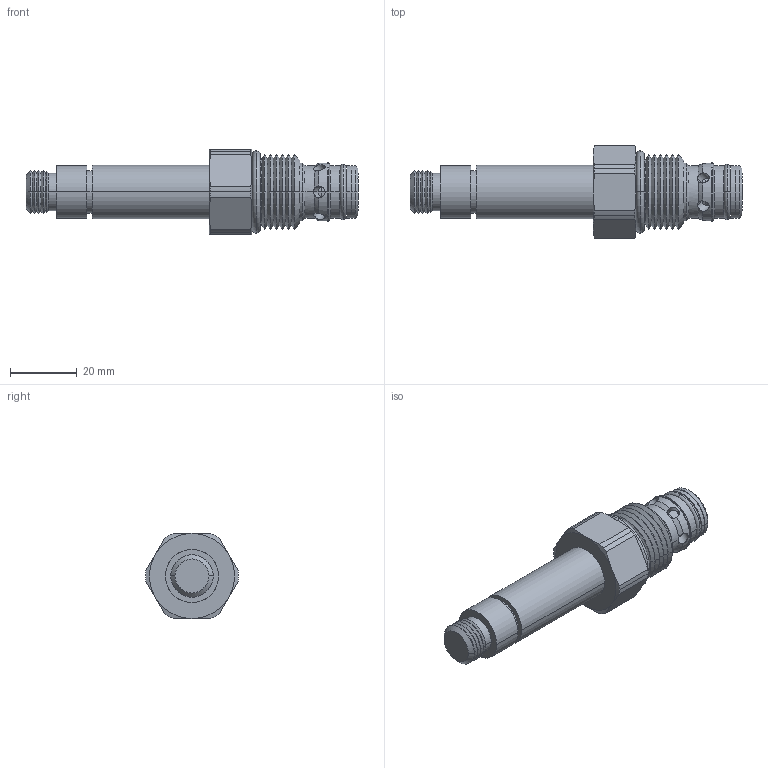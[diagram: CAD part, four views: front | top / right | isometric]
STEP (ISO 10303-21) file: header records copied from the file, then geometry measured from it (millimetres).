
FILE_DESCRIPTION((''),'2;1');
FILE_NAME('U:\Solid model CD\Solid model full\Solenoid\STEP\HES2B00-3D Full.stp','2008-06-23T11:20:55',('Dan'),(''),'Autodesk Inventor 9','Autodesk Inventor 9','');
FILE_SCHEMA(('AUTOMOTIVE_DESIGN { 1 0 10303 214 1 1 1 1 }'));
Length unit declared in the file: inch
Products named in the file (5): HES2B00-3D Full; HES2B00-3D Full1; HES2B00-3D Full2; HES2B00-3D Full3; HES2B00-3D Full4
Assembly tree (4 placements, depth 2):
  HES2B00-3D Full
    HES2B00-3D Full1
    HES2B00-3D Full2
    HES2B00-3D Full3
    HES2B00-3D Full4
Bounding box: 99.2 x 27.76 x 25.4 mm (x, y, z)
Volume: 25090.7 mm3; surface area: 9243.7 mm2
Topology: 4 solids, 4 shells, 189 faces, 449 edges, 269 vertices
Faces by surface type: cone 80, cylinder 68, plane 25, torus 10, bspline 6
Entity records: 6282 total; most frequent: CARTESIAN_POINT 1774, DIRECTION 988, ORIENTED_EDGE 898, EDGE_CURVE 449, AXIS2_PLACEMENT_3D 425, VERTEX_POINT 269, CIRCLE 233, EDGE_LOOP 210
